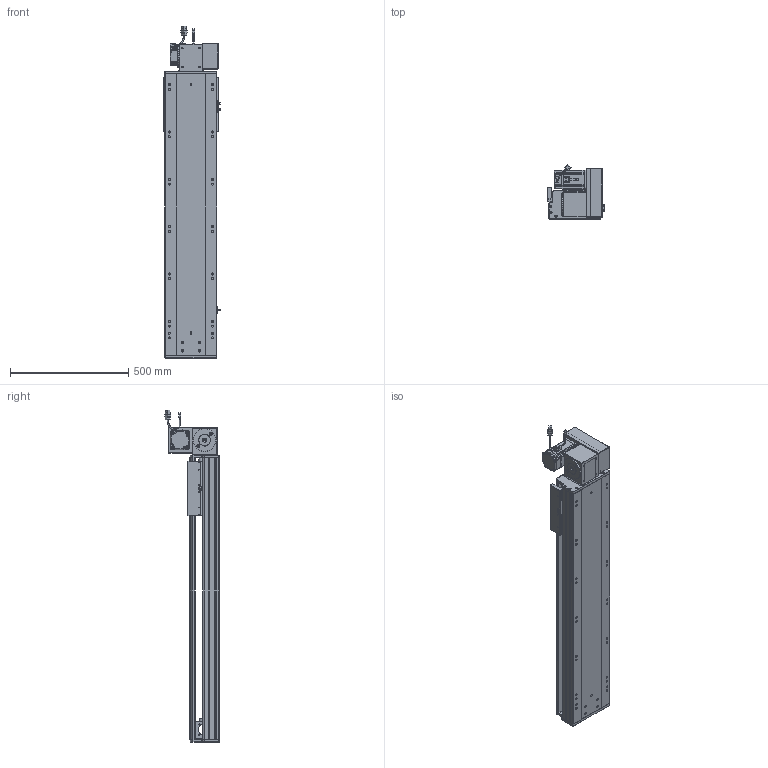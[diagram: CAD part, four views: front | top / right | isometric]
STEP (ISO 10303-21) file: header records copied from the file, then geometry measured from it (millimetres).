
FILE_DESCRIPTION (( 'STEP AP203' ), '1' );
FILE_NAME ('RY220-T-300-UR.SLDASM_850.step', '2022-07-25T08:43:08', ( '' ), ( '' ), 'SwSTEP 2.0', 'SolidWorks 2016', '' );
FILE_SCHEMA (( 'CONFIG_CONTROL_DESIGN' ));
Length unit declared in the file: millimetre
Products named in the file (14): RY220-同步轮副支撑座6304×2; RY220圉猾敕々湍臏賑輸; 怢湛750W_ECMA-CX0807ES; RY220翋肮祭謫釱; 覜茼ん672; RY220-T菁釱-300_850; RY220-T-300-奻裔啣_850; RY220翋肮祭謫裔啣; RY220-T-蛌殏萇儂假蚾啣(750W); RY220-T-湍謫欶(鍼踢); RY220-俋离672覜茼んえ; 滅袉蝶18-15; 110A-T-肮祭謫釱傷裔; RY220-T-300-UR.SLDASM_850
Assembly tree (18 placements, depth 2):
  RY220-T-300-UR.SLDASM_850
    RY220-T菁釱-300_850
    RY220翋肮祭謫釱
    覜茼ん672  x3
    RY220圉猾敕々湍臏賑輸
    RY220-T-300-奻裔啣_850
    RY220-俋离672覜茼んえ
    滅袉蝶18-15  x3
    RY220翋肮祭謫裔啣  x2
    110A-T-肮祭謫釱傷裔
    怢湛750W_ECMA-CX0807ES
    RY220-T-湍謫欶(鍼踢)
    RY220-T-蛌殏萇儂假蚾啣(750W)
    RY220-同步轮副支撑座6304×2
Bounding box: 238.7 x 231.74 x 1403.27 mm (x, y, z)
Volume: 11286359.4 mm3; surface area: 3264457.7 mm2
Topology: 19 solids, 19 shells, 2600 faces, 7175 edges, 4560 vertices
Faces by surface type: cylinder 1212, plane 1069, cone 237, bspline 56, sphere 16, torus 10
Entity records: 86563 total; most frequent: CARTESIAN_POINT 24751, ORIENTED_EDGE 12858, DIRECTION 12116, EDGE_CURVE 6429, AXIS2_PLACEMENT_3D 4274, VERTEX_POINT 4184, LINE 3568, VECTOR 3568
